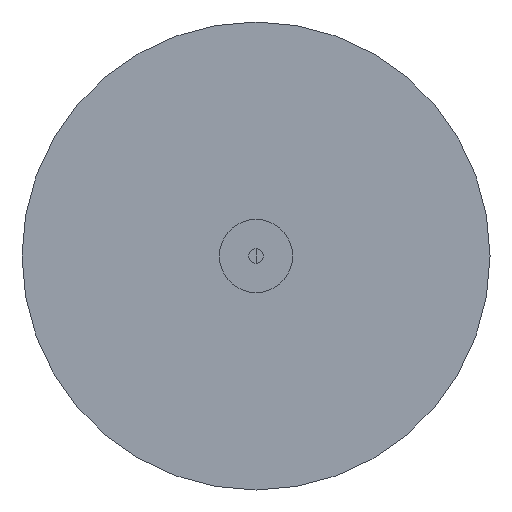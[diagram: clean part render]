
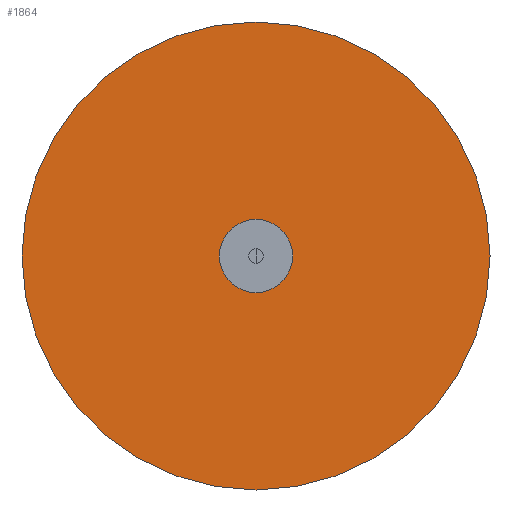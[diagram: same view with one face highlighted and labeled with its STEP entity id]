
A CAD part, front view. The second image highlights one B-rep face of the part: STEP entity #1864.
In plain terms, the highlighted planar face has unit normal (0, -1, 0).
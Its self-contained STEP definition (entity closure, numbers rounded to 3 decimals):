
#44 = CIRCLE ( 'NONE', #641, 160. ) ;
#148 = AXIS2_PLACEMENT_3D ( 'NONE', #697, #904, #2356 ) ;
#254 = CIRCLE ( 'NONE', #2422, 160. ) ;
#271 = CARTESIAN_POINT ( 'NONE',  ( 0., 0., 0. ) ) ;
#287 = DIRECTION ( 'NONE',  ( 0., 0., -1. ) ) ;
#290 = DIRECTION ( 'NONE',  ( 0., 0., 1. ) ) ;
#309 = AXIS2_PLACEMENT_3D ( 'NONE', #1555, #719, #287 ) ;
#635 = EDGE_CURVE ( 'NONE', #1150, #2327, #254, .T. ) ;
#641 = AXIS2_PLACEMENT_3D ( 'NONE', #2315, #853, #1664 ) ;
#647 = EDGE_LOOP ( 'NONE', ( #2430, #1235 ) ) ;
#697 = CARTESIAN_POINT ( 'NONE',  ( 0., 0., 0. ) ) ;
#719 = DIRECTION ( 'NONE',  ( 0., -1., 0. ) ) ;
#771 = FACE_OUTER_BOUND ( 'NONE', #647, .T. ) ;
#853 = DIRECTION ( 'NONE',  ( 0., 1., 0. ) ) ;
#860 = CARTESIAN_POINT ( 'NONE',  ( 0., 0., -25. ) ) ;
#904 = DIRECTION ( 'NONE',  ( 0., 1., 0. ) ) ;
#1093 = EDGE_CURVE ( 'NONE', #2327, #1150, #44, .T. ) ;
#1109 = PLANE ( 'NONE',  #148 ) ;
#1150 = VERTEX_POINT ( 'NONE', #2533 ) ;
#1173 = VERTEX_POINT ( 'NONE', #860 ) ;
#1235 = ORIENTED_EDGE ( 'NONE', *, *, #1093, .F. ) ;
#1285 = EDGE_CURVE ( 'NONE', #1932, #1173, #1946, .T. ) ;
#1385 = EDGE_CURVE ( 'NONE', #1173, #1932, #2421, .T. ) ;
#1500 = DIRECTION ( 'NONE',  ( 0., -1., 0. ) ) ;
#1555 = CARTESIAN_POINT ( 'NONE',  ( 0., 0., 0. ) ) ;
#1644 = CARTESIAN_POINT ( 'NONE',  ( 0., 0., 160. ) ) ;
#1662 = AXIS2_PLACEMENT_3D ( 'NONE', #271, #1500, #2132 ) ;
#1664 = DIRECTION ( 'NONE',  ( 0., 0., 1. ) ) ;
#1693 = ORIENTED_EDGE ( 'NONE', *, *, #1385, .F. ) ;
#1737 = EDGE_LOOP ( 'NONE', ( #1693, #1790 ) ) ;
#1790 = ORIENTED_EDGE ( 'NONE', *, *, #1285, .F. ) ;
#1808 = FACE_BOUND ( 'NONE', #1737, .T. ) ;
#1864 = ADVANCED_FACE ( 'NONE', ( #1808, #771 ), #1109, .F. ) ;
#1932 = VERTEX_POINT ( 'NONE', #2485 ) ;
#1946 = CIRCLE ( 'NONE', #1662, 25. ) ;
#2132 = DIRECTION ( 'NONE',  ( 0., 0., -1. ) ) ;
#2173 = DIRECTION ( 'NONE',  ( 0., 1., 0. ) ) ;
#2201 = CARTESIAN_POINT ( 'NONE',  ( 0., 0., 0. ) ) ;
#2315 = CARTESIAN_POINT ( 'NONE',  ( 0., 0., 0. ) ) ;
#2327 = VERTEX_POINT ( 'NONE', #1644 ) ;
#2356 = DIRECTION ( 'NONE',  ( 0., 0., 1. ) ) ;
#2421 = CIRCLE ( 'NONE', #309, 25. ) ;
#2422 = AXIS2_PLACEMENT_3D ( 'NONE', #2201, #2173, #290 ) ;
#2430 = ORIENTED_EDGE ( 'NONE', *, *, #635, .F. ) ;
#2485 = CARTESIAN_POINT ( 'NONE',  ( 0., 0., 25. ) ) ;
#2533 = CARTESIAN_POINT ( 'NONE',  ( 0., 0., -160. ) ) ;
